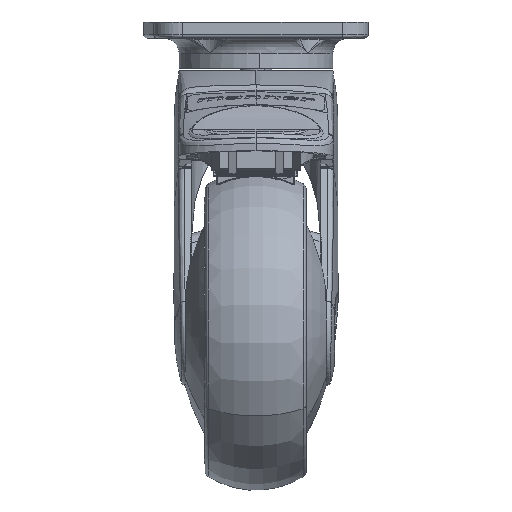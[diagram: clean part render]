
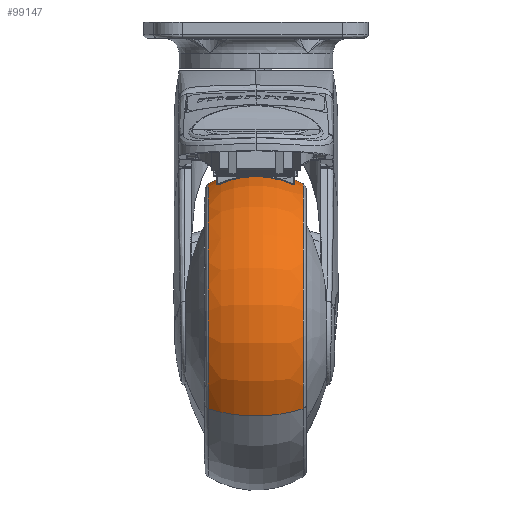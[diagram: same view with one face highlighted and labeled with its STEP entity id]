
A CAD part, left-side view. The second image highlights one B-rep face of the part: STEP entity #99147.
In plain terms, the highlighted toroidal (fillet/blend) face has major radius 22 mm and minor radius 28 mm.
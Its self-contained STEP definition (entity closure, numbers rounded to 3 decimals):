
#34442 = CIRCLE ( 'NONE', #34464, 45.764 ) ;
#34457 = DIRECTION ( 'NONE',  ( 0.845, 0., 0.535 ) ) ;
#34464 = AXIS2_PLACEMENT_3D ( 'NONE', #34469, #34554, #34457 ) ;
#34469 = CARTESIAN_POINT ( 'NONE',  ( -18.853, 20.574, -45.31 ) ) ;
#34516 = CARTESIAN_POINT ( 'NONE',  ( 19.803, -9.041, -20.814 ) ) ;
#34519 = CARTESIAN_POINT ( 'NONE',  ( 19.803, 20.574, -20.814 ) ) ;
#34551 = CARTESIAN_POINT ( 'NONE',  ( -57.509, 20.574, -69.807 ) ) ;
#34554 = DIRECTION ( 'NONE',  ( 0., -1., 0. ) ) ;
#78409 = CARTESIAN_POINT ( 'NONE',  ( -0.27, 5.767, -33.534 ) ) ;
#78410 = CIRCLE ( 'NONE', #78440, 45.764 ) ;
#78420 = CIRCLE ( 'NONE', #78444, 28. ) ;
#78423 = CARTESIAN_POINT ( 'NONE',  ( -18.853, -9.041, -45.31 ) ) ;
#78424 = CARTESIAN_POINT ( 'NONE',  ( -18.853, 5.767, -45.31 ) ) ;
#78426 = TOROIDAL_SURFACE ( 'NONE', #78436, 22., 28. ) ;
#78430 = FACE_OUTER_BOUND ( 'NONE', #80250, .T. ) ;
#78431 = DIRECTION ( 'NONE',  ( 0.845, 0., 0.535 ) ) ;
#78432 = DIRECTION ( 'NONE',  ( -0.535, 0., 0.845 ) ) ;
#78433 = CARTESIAN_POINT ( 'NONE',  ( -37.436, 5.767, -57.087 ) ) ;
#78434 = AXIS2_PLACEMENT_3D ( 'NONE', #78433, #78432, #78431 ) ;
#78435 = CIRCLE ( 'NONE', #78434, 28. ) ;
#78436 = AXIS2_PLACEMENT_3D ( 'NONE', #78424, #78437, #78503 ) ;
#78437 = DIRECTION ( 'NONE',  ( 0., -1., 0. ) ) ;
#78438 = DIRECTION ( 'NONE',  ( 0.845, 0., 0.535 ) ) ;
#78439 = DIRECTION ( 'NONE',  ( 0., -1., 0. ) ) ;
#78440 = AXIS2_PLACEMENT_3D ( 'NONE', #78423, #78439, #78438 ) ;
#78442 = DIRECTION ( 'NONE',  ( -0.845, 0., -0.535 ) ) ;
#78443 = DIRECTION ( 'NONE',  ( 0.535, 0., -0.845 ) ) ;
#78444 = AXIS2_PLACEMENT_3D ( 'NONE', #78409, #78443, #78442 ) ;
#78503 = DIRECTION ( 'NONE',  ( 0.845, 0., 0.535 ) ) ;
#80250 = EDGE_LOOP ( 'NONE', ( #99129, #99126, #99122, #99118 ) ) ;
#80702 = EDGE_CURVE ( 'NONE', #80848, #80842, #34442, .T. ) ;
#80842 = VERTEX_POINT ( 'NONE', #34551 ) ;
#80848 = VERTEX_POINT ( 'NONE', #34519 ) ;
#80912 = VERTEX_POINT ( 'NONE', #34516 ) ;
#81894 = CARTESIAN_POINT ( 'NONE',  ( -57.509, -9.041, -69.807 ) ) ;
#99118 = ORIENTED_EDGE ( 'NONE', *, *, #99121, .F. ) ;
#99121 = EDGE_CURVE ( 'NONE', #80848, #80912, #78420, .T. ) ;
#99122 = ORIENTED_EDGE ( 'NONE', *, *, #99125, .F. ) ;
#99125 = EDGE_CURVE ( 'NONE', #80912, #100085, #78410, .T. ) ;
#99126 = ORIENTED_EDGE ( 'NONE', *, *, #99127, .T. ) ;
#99127 = EDGE_CURVE ( 'NONE', #80842, #100085, #78435, .T. ) ;
#99129 = ORIENTED_EDGE ( 'NONE', *, *, #80702, .T. ) ;
#99147 = ADVANCED_FACE ( 'NONE', ( #78430 ), #78426, .T. ) ;
#100085 = VERTEX_POINT ( 'NONE', #81894 ) ;
